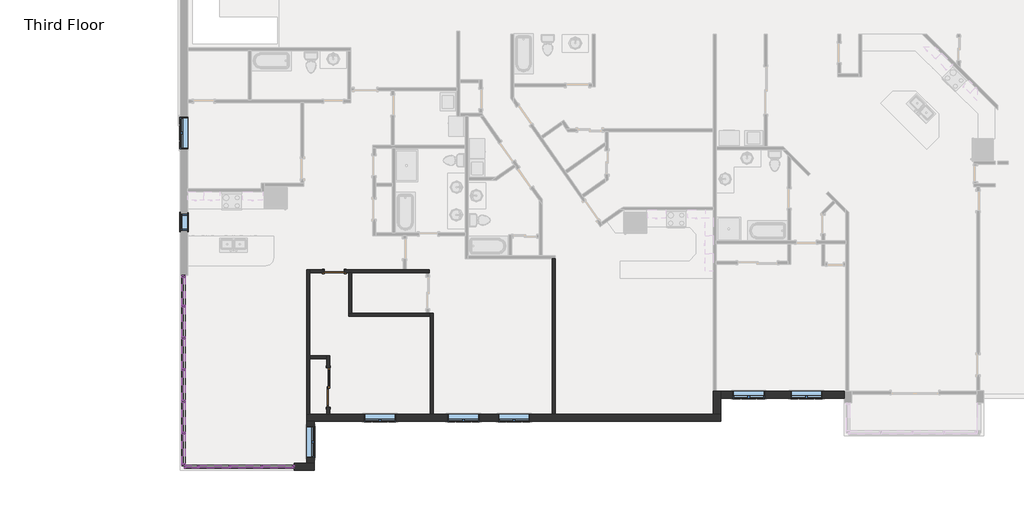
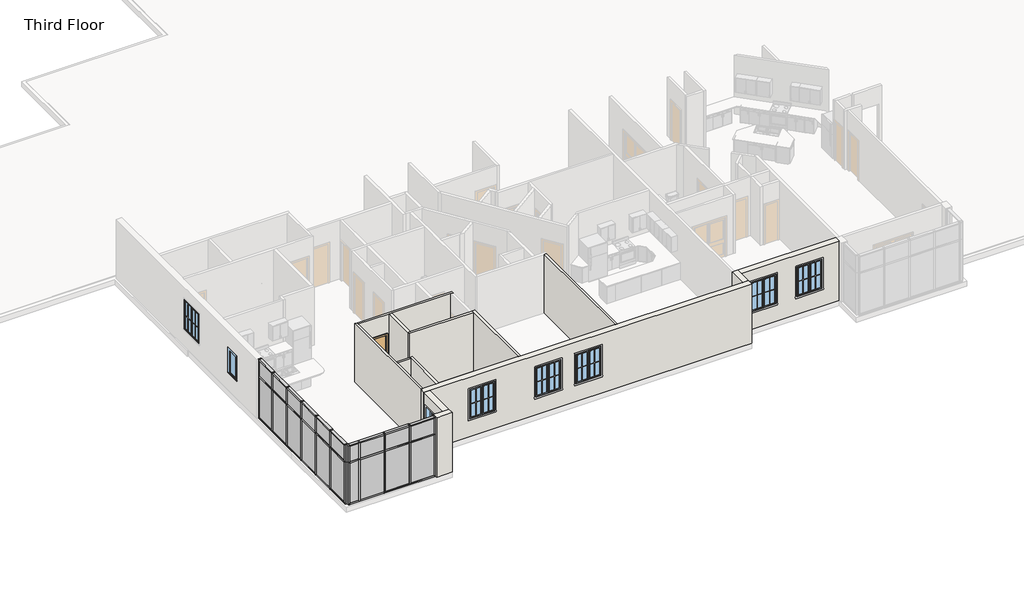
# One storey, part 1 of 17: 54 members, 20 plates, 13 walls, 8 windows, 2 doors.
"""IFC4 building model written with IfcOpenShell, lengths in millimetres."""

from ifc_helpers import new_model, si_unit, frame, origin, place, context, project, spatial, polyline, outline, extrude, faceted_brep, transform, mapped, element, save
from components import door_f2b275c1, door_2e7ec8be, rectangular_mullion_rectangular_mullion_1_c1bf3533, rectangular_mullion_rectangular_mullion_1_fa3625a1, rectangular_mullion_rectangular_mullion_1_a50b3cda, rectangular_mullion_rectangular_mullion_1_5cd4c5ac, rectangular_mullion_rectangular_mullion_1_7cbf0b94, rectangular_mullion_rectangular_mullion_1_1da01dff, rectangular_mullion_rectangular_mullion_1_6186cc23, rectangular_mullion_rectangular_mullion_1_049a2e78, rectangular_mullion_rectangular_mullion_1_fcad50a8, rectangular_mullion_rectangular_mullion_1_aa096312, system_panel_glazed_53e6f9fb, system_panel_glazed_0e039939, system_panel_glazed_cb820e14, system_panel_glazed_5b288161, system_panel_glazed_f20beefc, system_panel_glazed_097fd36c, window_b85827b5, window_33528cc2

model = new_model("IFC4")

# Units and contexts
model_context = context("Model", 3, world=origin())
ifc_project = project(units=[si_unit("LENGTHUNIT", "METRE", prefix="MILLI")], contexts=[model_context])

# Site, building, storey
site = spatial("IfcSite", under=ifc_project)
building = spatial("IfcBuilding", under=site)
storey = spatial("IfcBuildingStorey", under=building, Name="Third Floor", Elevation=6096.0)

# Doors
placement = place(None, origin())
door_shape = door_f2b275c1(model_context)
element("IfcDoor", 1, ObjectType="Single-Flush : 30\" x 80\"", at=placement, inside=storey, context=model_context, shape_type="MappedRepresentation", body=[
    mapped(door_shape, transform((12807.779723, -13829.1071807, 6096.0), x_axis=(1.0, 0.0, 0.0), y_axis=(0.0, 1.0, 0.0), z_axis=(0.0, 0.0, 1.0))),
])
door_2_shape = door_2e7ec8be(model_context)
element("IfcDoor", 2, ObjectType="Sliding-Closet : 60\" x 80\"", at=placement, inside=storey, context=model_context, shape_type="MappedRepresentation", body=[
    mapped(door_2_shape, transform((12448.2103704, -18291.1858961, 6096.0), x_axis=(0.0, -1.0, 0.0), y_axis=(1.0, 0.0, 0.0), z_axis=(0.0, 0.0, 1.0))),
])

# Members
rectangular_mullion_rectangular_mullion_1_shape = rectangular_mullion_rectangular_mullion_1_c1bf3533(model_context)
element("IfcMember", 3, ObjectType="Rectangular Mullion : Rectangular Mullion 1", at=placement, inside=storey, context=model_context, shape_type="MappedRepresentation", body=[
    mapped(rectangular_mullion_rectangular_mullion_1_shape, transform((7097.5509633, -21333.0996067, 9144.0), x_axis=(0.0, 0.0, 1.0), y_axis=(0.0, 1.0, 0.0), z_axis=(-1.0, 0.0, 0.0))),
])
rectangular_mullion_rectangular_mullion_1_2_shape = rectangular_mullion_rectangular_mullion_1_fa3625a1(model_context)
element("IfcMember", 4, ObjectType="Rectangular Mullion : Rectangular Mullion 1", at=placement, inside=storey, context=model_context, shape_type="MappedRepresentation", body=[
    mapped(rectangular_mullion_rectangular_mullion_1_2_shape, transform((10056.650963, -21333.0996067, 9144.0), x_axis=(0.0, 0.0, 1.0), y_axis=(0.0, 1.0, 0.0), z_axis=(-1.0, 0.0, 0.0))),
])
element("IfcMember", 5, ObjectType="Rectangular Mullion : Rectangular Mullion 1", at=placement, inside=storey, context=model_context, shape_type="MappedRepresentation", body=[
    mapped(rectangular_mullion_rectangular_mullion_1_2_shape, transform((8837.450963, -21333.0996067, 9144.0), x_axis=(0.0, 0.0, 1.0), y_axis=(0.0, 1.0, 0.0), z_axis=(-1.0, 0.0, 0.0))),
])
element("IfcMember", 6, ObjectType="Rectangular Mullion : Rectangular Mullion 1", at=placement, inside=storey, context=model_context, shape_type="MappedRepresentation", body=[
    mapped(rectangular_mullion_rectangular_mullion_1_2_shape, transform((7618.250963, -21333.0996067, 9144.0), x_axis=(0.0, 0.0, 1.0), y_axis=(0.0, 1.0, 0.0), z_axis=(-1.0, 0.0, 0.0))),
])
element("IfcMember", 7, ObjectType="Rectangular Mullion : Rectangular Mullion 1", at=placement, inside=storey, context=model_context, shape_type="MappedRepresentation", body=[
    mapped(rectangular_mullion_rectangular_mullion_1_2_shape, transform((7015.0009633, -20069.4496064, 9144.0), x_axis=(0.0, 0.0, 1.0), y_axis=(1.0, 0.0, 0.0), z_axis=(0.0, 1.0, 0.0))),
])
element("IfcMember", 8, ObjectType="Rectangular Mullion : Rectangular Mullion 1", at=placement, inside=storey, context=model_context, shape_type="MappedRepresentation", body=[
    mapped(rectangular_mullion_rectangular_mullion_1_2_shape, transform((7015.0009633, -18850.2496064, 9144.0), x_axis=(0.0, 0.0, 1.0), y_axis=(1.0, 0.0, 0.0), z_axis=(0.0, 1.0, 0.0))),
])
element("IfcMember", 9, ObjectType="Rectangular Mullion : Rectangular Mullion 1", at=placement, inside=storey, context=model_context, shape_type="MappedRepresentation", body=[
    mapped(rectangular_mullion_rectangular_mullion_1_2_shape, transform((7015.0009633, -17631.0496064, 9144.0), x_axis=(0.0, 0.0, 1.0), y_axis=(1.0, 0.0, 0.0), z_axis=(0.0, 1.0, 0.0))),
])
element("IfcMember", 10, ObjectType="Rectangular Mullion : Rectangular Mullion 1", at=placement, inside=storey, context=model_context, shape_type="MappedRepresentation", body=[
    mapped(rectangular_mullion_rectangular_mullion_1_2_shape, transform((7015.0009633, -16411.8496064, 9144.0), x_axis=(0.0, 0.0, 1.0), y_axis=(1.0, 0.0, 0.0), z_axis=(0.0, 1.0, 0.0))),
])
element("IfcMember", 11, ObjectType="Rectangular Mullion : Rectangular Mullion 1", at=placement, inside=storey, context=model_context, shape_type="MappedRepresentation", body=[
    mapped(rectangular_mullion_rectangular_mullion_1_2_shape, transform((7015.0009633, -15192.6496064, 9144.0), x_axis=(0.0, 0.0, 1.0), y_axis=(1.0, 0.0, 0.0), z_axis=(0.0, 1.0, 0.0))),
])
element("IfcMember", 12, ObjectType="Rectangular Mullion : Rectangular Mullion 1", at=placement, inside=storey, context=model_context, shape_type="MappedRepresentation", body=[
    mapped(rectangular_mullion_rectangular_mullion_1_2_shape, transform((11212.3509633, -21333.0996067, 6096.0), x_axis=(0.0, 0.0, -1.0), y_axis=(0.0, 1.0, 0.0), z_axis=(1.0, 0.0, 0.0))),
])
element("IfcMember", 13, ObjectType="Rectangular Mullion : Rectangular Mullion 1", at=placement, inside=storey, context=model_context, shape_type="MappedRepresentation", body=[
    mapped(rectangular_mullion_rectangular_mullion_1_2_shape, transform((9993.150963, -21333.0996067, 6096.0), x_axis=(0.0, 0.0, -1.0), y_axis=(0.0, 1.0, 0.0), z_axis=(1.0, 0.0, 0.0))),
])
element("IfcMember", 14, ObjectType="Rectangular Mullion : Rectangular Mullion 1", at=placement, inside=storey, context=model_context, shape_type="MappedRepresentation", body=[
    mapped(rectangular_mullion_rectangular_mullion_1_2_shape, transform((8773.950963, -21333.0996067, 6096.0), x_axis=(0.0, 0.0, -1.0), y_axis=(0.0, 1.0, 0.0), z_axis=(1.0, 0.0, 0.0))),
])
element("IfcMember", 15, ObjectType="Rectangular Mullion : Rectangular Mullion 1", at=placement, inside=storey, context=model_context, shape_type="MappedRepresentation", body=[
    mapped(rectangular_mullion_rectangular_mullion_1_2_shape, transform((7015.0009633, -21225.1496067, 6096.0), x_axis=(0.0, 0.0, -1.0), y_axis=(1.0, 0.0, 0.0), z_axis=(0.0, -1.0, 0.0))),
])
element("IfcMember", 16, ObjectType="Rectangular Mullion : Rectangular Mullion 1", at=placement, inside=storey, context=model_context, shape_type="MappedRepresentation", body=[
    mapped(rectangular_mullion_rectangular_mullion_1_2_shape, transform((7015.0009633, -20005.9496064, 6096.0), x_axis=(0.0, 0.0, -1.0), y_axis=(1.0, 0.0, 0.0), z_axis=(0.0, -1.0, 0.0))),
])
element("IfcMember", 17, ObjectType="Rectangular Mullion : Rectangular Mullion 1", at=placement, inside=storey, context=model_context, shape_type="MappedRepresentation", body=[
    mapped(rectangular_mullion_rectangular_mullion_1_2_shape, transform((7015.0009633, -18786.7496064, 6096.0), x_axis=(0.0, 0.0, -1.0), y_axis=(1.0, 0.0, 0.0), z_axis=(0.0, -1.0, 0.0))),
])
element("IfcMember", 18, ObjectType="Rectangular Mullion : Rectangular Mullion 1", at=placement, inside=storey, context=model_context, shape_type="MappedRepresentation", body=[
    mapped(rectangular_mullion_rectangular_mullion_1_2_shape, transform((7015.0009633, -17567.5496064, 6096.0), x_axis=(0.0, 0.0, -1.0), y_axis=(1.0, 0.0, 0.0), z_axis=(0.0, -1.0, 0.0))),
])
element("IfcMember", 19, ObjectType="Rectangular Mullion : Rectangular Mullion 1", at=placement, inside=storey, context=model_context, shape_type="MappedRepresentation", body=[
    mapped(rectangular_mullion_rectangular_mullion_1_2_shape, transform((7015.0009633, -16348.3496064, 6096.0), x_axis=(0.0, 0.0, -1.0), y_axis=(1.0, 0.0, 0.0), z_axis=(0.0, -1.0, 0.0))),
])
element("IfcMember", 20, ObjectType="Rectangular Mullion : Rectangular Mullion 1", at=placement, inside=storey, context=model_context, shape_type="MappedRepresentation", body=[
    mapped(rectangular_mullion_rectangular_mullion_1_shape, transform((7554.750963, -21333.0996067, 6096.0), x_axis=(0.0, 0.0, -1.0), y_axis=(0.0, 1.0, 0.0), z_axis=(1.0, 0.0, 0.0))),
])
rectangular_mullion_rectangular_mullion_1_3_shape = rectangular_mullion_rectangular_mullion_1_a50b3cda(model_context)
element("IfcMember", 21, ObjectType="Rectangular Mullion : Rectangular Mullion 1", at=placement, inside=storey, context=model_context, shape_type="MappedRepresentation", body=[
    mapped(rectangular_mullion_rectangular_mullion_1_3_shape, transform((7034.0509633, -21333.0996067, 6096.0), x_axis=(-1.0, 0.0, 0.0), y_axis=(0.0, 1.0, 0.0), z_axis=(0.0, 0.0, -1.0))),
])
element("IfcMember", 22, ObjectType="Rectangular Mullion : Rectangular Mullion 1", at=placement, inside=storey, context=model_context, shape_type="MappedRepresentation", body=[
    mapped(rectangular_mullion_rectangular_mullion_1_3_shape, transform((7015.0009633, -13981.3871067, 6096.0), x_axis=(0.0, 1.0, 0.0), y_axis=(1.0, 0.0, 0.0), z_axis=(0.0, 0.0, -1.0))),
])
rectangular_mullion_rectangular_mullion_1_4_shape = rectangular_mullion_rectangular_mullion_1_5cd4c5ac(model_context)
element("IfcMember", 23, ObjectType="Rectangular Mullion : Rectangular Mullion 1", at=placement, inside=storey, context=model_context, shape_type="MappedRepresentation", body=[
    mapped(rectangular_mullion_rectangular_mullion_1_4_shape, transform((7034.0509633, -21333.0996067, 8261.35), x_axis=(-1.0, 0.0, 0.0), y_axis=(0.0, 1.0, 0.0), z_axis=(0.0, 0.0, -1.0))),
])
element("IfcMember", 24, ObjectType="Rectangular Mullion : Rectangular Mullion 1", at=placement, inside=storey, context=model_context, shape_type="MappedRepresentation", body=[
    mapped(rectangular_mullion_rectangular_mullion_1_4_shape, transform((7015.0009633, -13981.3871067, 8261.35), x_axis=(0.0, 1.0, 0.0), y_axis=(1.0, 0.0, 0.0), z_axis=(0.0, 0.0, -1.0))),
])
element("IfcMember", 25, ObjectType="Rectangular Mullion : Rectangular Mullion 1", at=placement, inside=storey, context=model_context, shape_type="MappedRepresentation", body=[
    mapped(rectangular_mullion_rectangular_mullion_1_4_shape, transform((11275.8509633, -21333.0996067, 9144.0), x_axis=(1.0, 0.0, 0.0), y_axis=(0.0, 1.0, 0.0), z_axis=(0.0, 0.0, 1.0))),
])
element("IfcMember", 26, ObjectType="Rectangular Mullion : Rectangular Mullion 1", at=placement, inside=storey, context=model_context, shape_type="MappedRepresentation", body=[
    mapped(rectangular_mullion_rectangular_mullion_1_4_shape, transform((7015.0009633, -21288.6496067, 9144.0), x_axis=(0.0, -1.0, 0.0), y_axis=(1.0, 0.0, 0.0), z_axis=(0.0, 0.0, 1.0))),
])
element("IfcMember", 27, ObjectType="Rectangular Mullion : Rectangular Mullion 1", at=placement, inside=storey, context=model_context, shape_type="MappedRepresentation", body=[
    mapped(rectangular_mullion_rectangular_mullion_1_3_shape, transform((11275.8509633, -21333.0996067, 8261.35), x_axis=(1.0, 0.0, 0.0), y_axis=(0.0, 1.0, 0.0), z_axis=(0.0, 0.0, 1.0))),
])
element("IfcMember", 28, ObjectType="Rectangular Mullion : Rectangular Mullion 1", at=placement, inside=storey, context=model_context, shape_type="MappedRepresentation", body=[
    mapped(rectangular_mullion_rectangular_mullion_1_3_shape, transform((7015.0009633, -21288.6496067, 8261.35), x_axis=(0.0, -1.0, 0.0), y_axis=(1.0, 0.0, 0.0), z_axis=(0.0, 0.0, 1.0))),
])
rectangular_mullion_rectangular_mullion_1_5_shape = rectangular_mullion_rectangular_mullion_1_7cbf0b94(model_context)
element("IfcMember", 29, ObjectType="Rectangular Mullion : Rectangular Mullion 1", at=placement, inside=storey, context=model_context, shape_type="MappedRepresentation", body=[
    mapped(rectangular_mullion_rectangular_mullion_1_5_shape, transform((10056.650963, -21333.0996067, 8261.35), x_axis=(0.0, 0.0, 1.0), y_axis=(0.0, 1.0, 0.0), z_axis=(-1.0, 0.0, 0.0))),
])
element("IfcMember", 30, ObjectType="Rectangular Mullion : Rectangular Mullion 1", at=placement, inside=storey, context=model_context, shape_type="MappedRepresentation", body=[
    mapped(rectangular_mullion_rectangular_mullion_1_5_shape, transform((8837.450963, -21333.0996067, 8261.35), x_axis=(0.0, 0.0, 1.0), y_axis=(0.0, 1.0, 0.0), z_axis=(-1.0, 0.0, 0.0))),
])
element("IfcMember", 31, ObjectType="Rectangular Mullion : Rectangular Mullion 1", at=placement, inside=storey, context=model_context, shape_type="MappedRepresentation", body=[
    mapped(rectangular_mullion_rectangular_mullion_1_5_shape, transform((7618.250963, -21333.0996067, 8261.35), x_axis=(0.0, 0.0, 1.0), y_axis=(0.0, 1.0, 0.0), z_axis=(-1.0, 0.0, 0.0))),
])
element("IfcMember", 32, ObjectType="Rectangular Mullion : Rectangular Mullion 1", at=placement, inside=storey, context=model_context, shape_type="MappedRepresentation", body=[
    mapped(rectangular_mullion_rectangular_mullion_1_5_shape, transform((7015.0009633, -20069.4496064, 8261.35), x_axis=(0.0, 0.0, 1.0), y_axis=(1.0, 0.0, 0.0), z_axis=(0.0, 1.0, 0.0))),
])
element("IfcMember", 33, ObjectType="Rectangular Mullion : Rectangular Mullion 1", at=placement, inside=storey, context=model_context, shape_type="MappedRepresentation", body=[
    mapped(rectangular_mullion_rectangular_mullion_1_5_shape, transform((7015.0009633, -18850.2496064, 8261.35), x_axis=(0.0, 0.0, 1.0), y_axis=(1.0, 0.0, 0.0), z_axis=(0.0, 1.0, 0.0))),
])
element("IfcMember", 34, ObjectType="Rectangular Mullion : Rectangular Mullion 1", at=placement, inside=storey, context=model_context, shape_type="MappedRepresentation", body=[
    mapped(rectangular_mullion_rectangular_mullion_1_5_shape, transform((7015.0009633, -17631.0496064, 8261.35), x_axis=(0.0, 0.0, 1.0), y_axis=(1.0, 0.0, 0.0), z_axis=(0.0, 1.0, 0.0))),
])
element("IfcMember", 35, ObjectType="Rectangular Mullion : Rectangular Mullion 1", at=placement, inside=storey, context=model_context, shape_type="MappedRepresentation", body=[
    mapped(rectangular_mullion_rectangular_mullion_1_5_shape, transform((7015.0009633, -16411.8496064, 8261.35), x_axis=(0.0, 0.0, 1.0), y_axis=(1.0, 0.0, 0.0), z_axis=(0.0, 1.0, 0.0))),
])
element("IfcMember", 36, ObjectType="Rectangular Mullion : Rectangular Mullion 1", at=placement, inside=storey, context=model_context, shape_type="MappedRepresentation", body=[
    mapped(rectangular_mullion_rectangular_mullion_1_5_shape, transform((7015.0009633, -15192.6496064, 8261.35), x_axis=(0.0, 0.0, 1.0), y_axis=(1.0, 0.0, 0.0), z_axis=(0.0, 1.0, 0.0))),
])
rectangular_mullion_rectangular_mullion_1_6_shape = rectangular_mullion_rectangular_mullion_1_1da01dff(model_context)
element("IfcMember", 37, ObjectType="Rectangular Mullion : Rectangular Mullion 1", at=placement, inside=storey, context=model_context, shape_type="MappedRepresentation", body=[
    mapped(rectangular_mullion_rectangular_mullion_1_6_shape, transform((7097.5509633, -21333.0996067, 8261.35), x_axis=(0.0, 0.0, 1.0), y_axis=(0.0, 1.0, 0.0), z_axis=(-1.0, 0.0, 0.0))),
])
rectangular_mullion_rectangular_mullion_1_7_shape = rectangular_mullion_rectangular_mullion_1_6186cc23(model_context)
element("IfcMember", 38, ObjectType="Rectangular Mullion : Rectangular Mullion 1", at=placement, inside=storey, context=model_context, shape_type="MappedRepresentation", body=[
    mapped(rectangular_mullion_rectangular_mullion_1_7_shape, transform((10024.900963, -21333.0996067, 6096.0), x_axis=(-1.0, 0.0, 0.0), y_axis=(0.0, 1.0, 0.0), z_axis=(0.0, 0.0, -1.0))),
])
element("IfcMember", 39, ObjectType="Rectangular Mullion : Rectangular Mullion 1", at=placement, inside=storey, context=model_context, shape_type="MappedRepresentation", body=[
    mapped(rectangular_mullion_rectangular_mullion_1_7_shape, transform((8805.700963, -21333.0996067, 6096.0), x_axis=(-1.0, 0.0, 0.0), y_axis=(0.0, 1.0, 0.0), z_axis=(0.0, 0.0, -1.0))),
])
element("IfcMember", 40, ObjectType="Rectangular Mullion : Rectangular Mullion 1", at=placement, inside=storey, context=model_context, shape_type="MappedRepresentation", body=[
    mapped(rectangular_mullion_rectangular_mullion_1_7_shape, transform((7586.500963, -21333.0996067, 6096.0), x_axis=(-1.0, 0.0, 0.0), y_axis=(0.0, 1.0, 0.0), z_axis=(0.0, 0.0, -1.0))),
])
element("IfcMember", 41, ObjectType="Rectangular Mullion : Rectangular Mullion 1", at=placement, inside=storey, context=model_context, shape_type="MappedRepresentation", body=[
    mapped(rectangular_mullion_rectangular_mullion_1_7_shape, transform((7015.0009633, -20037.6996064, 6096.0), x_axis=(0.0, 1.0, 0.0), y_axis=(1.0, 0.0, 0.0), z_axis=(0.0, 0.0, -1.0))),
])
element("IfcMember", 42, ObjectType="Rectangular Mullion : Rectangular Mullion 1", at=placement, inside=storey, context=model_context, shape_type="MappedRepresentation", body=[
    mapped(rectangular_mullion_rectangular_mullion_1_7_shape, transform((7015.0009633, -18818.4996064, 6096.0), x_axis=(0.0, 1.0, 0.0), y_axis=(1.0, 0.0, 0.0), z_axis=(0.0, 0.0, -1.0))),
])
element("IfcMember", 43, ObjectType="Rectangular Mullion : Rectangular Mullion 1", at=placement, inside=storey, context=model_context, shape_type="MappedRepresentation", body=[
    mapped(rectangular_mullion_rectangular_mullion_1_7_shape, transform((7015.0009633, -17599.2996064, 6096.0), x_axis=(0.0, 1.0, 0.0), y_axis=(1.0, 0.0, 0.0), z_axis=(0.0, 0.0, -1.0))),
])
element("IfcMember", 44, ObjectType="Rectangular Mullion : Rectangular Mullion 1", at=placement, inside=storey, context=model_context, shape_type="MappedRepresentation", body=[
    mapped(rectangular_mullion_rectangular_mullion_1_7_shape, transform((7015.0009633, -16380.0996064, 6096.0), x_axis=(0.0, 1.0, 0.0), y_axis=(1.0, 0.0, 0.0), z_axis=(0.0, 0.0, -1.0))),
])
element("IfcMember", 45, ObjectType="Rectangular Mullion : Rectangular Mullion 1", at=placement, inside=storey, context=model_context, shape_type="MappedRepresentation", body=[
    mapped(rectangular_mullion_rectangular_mullion_1_7_shape, transform((7015.0009633, -15160.8996064, 6096.0), x_axis=(0.0, 1.0, 0.0), y_axis=(1.0, 0.0, 0.0), z_axis=(0.0, 0.0, -1.0))),
])
rectangular_mullion_rectangular_mullion_1_8_shape = rectangular_mullion_rectangular_mullion_1_049a2e78(model_context)
element("IfcMember", 46, ObjectType="Rectangular Mullion : Rectangular Mullion 1", at=placement, inside=storey, context=model_context, shape_type="MappedRepresentation", body=[
    mapped(rectangular_mullion_rectangular_mullion_1_8_shape, transform((10024.900963, -21333.0996067, 8261.35), x_axis=(-1.0, 0.0, 0.0), y_axis=(0.0, 1.0, 0.0), z_axis=(0.0, 0.0, -1.0))),
])
element("IfcMember", 47, ObjectType="Rectangular Mullion : Rectangular Mullion 1", at=placement, inside=storey, context=model_context, shape_type="MappedRepresentation", body=[
    mapped(rectangular_mullion_rectangular_mullion_1_8_shape, transform((8805.700963, -21333.0996067, 8261.35), x_axis=(-1.0, 0.0, 0.0), y_axis=(0.0, 1.0, 0.0), z_axis=(0.0, 0.0, -1.0))),
])
element("IfcMember", 48, ObjectType="Rectangular Mullion : Rectangular Mullion 1", at=placement, inside=storey, context=model_context, shape_type="MappedRepresentation", body=[
    mapped(rectangular_mullion_rectangular_mullion_1_8_shape, transform((7586.500963, -21333.0996067, 8261.35), x_axis=(-1.0, 0.0, 0.0), y_axis=(0.0, 1.0, 0.0), z_axis=(0.0, 0.0, -1.0))),
])
element("IfcMember", 49, ObjectType="Rectangular Mullion : Rectangular Mullion 1", at=placement, inside=storey, context=model_context, shape_type="MappedRepresentation", body=[
    mapped(rectangular_mullion_rectangular_mullion_1_8_shape, transform((7015.0009633, -20037.6996064, 8261.35), x_axis=(0.0, 1.0, 0.0), y_axis=(1.0, 0.0, 0.0), z_axis=(0.0, 0.0, -1.0))),
])
element("IfcMember", 50, ObjectType="Rectangular Mullion : Rectangular Mullion 1", at=placement, inside=storey, context=model_context, shape_type="MappedRepresentation", body=[
    mapped(rectangular_mullion_rectangular_mullion_1_8_shape, transform((7015.0009633, -18818.4996064, 8261.35), x_axis=(0.0, 1.0, 0.0), y_axis=(1.0, 0.0, 0.0), z_axis=(0.0, 0.0, -1.0))),
])
element("IfcMember", 51, ObjectType="Rectangular Mullion : Rectangular Mullion 1", at=placement, inside=storey, context=model_context, shape_type="MappedRepresentation", body=[
    mapped(rectangular_mullion_rectangular_mullion_1_8_shape, transform((7015.0009633, -17599.2996064, 8261.35), x_axis=(0.0, 1.0, 0.0), y_axis=(1.0, 0.0, 0.0), z_axis=(0.0, 0.0, -1.0))),
])
element("IfcMember", 52, ObjectType="Rectangular Mullion : Rectangular Mullion 1", at=placement, inside=storey, context=model_context, shape_type="MappedRepresentation", body=[
    mapped(rectangular_mullion_rectangular_mullion_1_8_shape, transform((7015.0009633, -16380.0996064, 8261.35), x_axis=(0.0, 1.0, 0.0), y_axis=(1.0, 0.0, 0.0), z_axis=(0.0, 0.0, -1.0))),
])
element("IfcMember", 53, ObjectType="Rectangular Mullion : Rectangular Mullion 1", at=placement, inside=storey, context=model_context, shape_type="MappedRepresentation", body=[
    mapped(rectangular_mullion_rectangular_mullion_1_8_shape, transform((7015.0009633, -15160.8996064, 8261.35), x_axis=(0.0, 1.0, 0.0), y_axis=(1.0, 0.0, 0.0), z_axis=(0.0, 0.0, -1.0))),
])
rectangular_mullion_rectangular_mullion_1_9_shape = rectangular_mullion_rectangular_mullion_1_fcad50a8(model_context)
element("IfcMember", 54, ObjectType="Rectangular Mullion : Rectangular Mullion 1", at=placement, inside=storey, context=model_context, shape_type="MappedRepresentation", body=[
    mapped(rectangular_mullion_rectangular_mullion_1_9_shape, transform((7015.0009633, -14044.8871067, 9144.0), x_axis=(0.0, 0.0, 1.0), y_axis=(1.0, 0.0, 0.0), z_axis=(0.0, 1.0, 0.0))),
])
element("IfcMember", 55, ObjectType="Rectangular Mullion : Rectangular Mullion 1", at=placement, inside=storey, context=model_context, shape_type="MappedRepresentation", body=[
    mapped(rectangular_mullion_rectangular_mullion_1_9_shape, transform((7015.0009633, -15129.1496064, 6096.0), x_axis=(0.0, 0.0, -1.0), y_axis=(1.0, 0.0, 0.0), z_axis=(0.0, -1.0, 0.0))),
])
rectangular_mullion_rectangular_mullion_1_10_shape = rectangular_mullion_rectangular_mullion_1_aa096312(model_context)
element("IfcMember", 56, ObjectType="Rectangular Mullion : Rectangular Mullion 1", at=placement, inside=storey, context=model_context, shape_type="MappedRepresentation", body=[
    mapped(rectangular_mullion_rectangular_mullion_1_10_shape, transform((7015.0009633, -14044.8871067, 8261.35), x_axis=(0.0, 0.0, 1.0), y_axis=(1.0, 0.0, 0.0), z_axis=(0.0, 1.0, 0.0))),
])

# Plates
system_panel_glazed_shape = system_panel_glazed_53e6f9fb(model_context)
element("IfcPlate", 57, ObjectType="System Panel : Glazed", at=placement, inside=storey, context=model_context, shape_type="MappedRepresentation", body=[
    mapped(system_panel_glazed_shape, transform((10634.5009632, -21333.0996067, 6159.5), x_axis=(-1.0, 0.0, 0.0), y_axis=(0.0, -1.0, 0.0), z_axis=(0.0, 0.0, 1.0))),
])
element("IfcPlate", 58, ObjectType="System Panel : Glazed", at=placement, inside=storey, context=model_context, shape_type="MappedRepresentation", body=[
    mapped(system_panel_glazed_shape, transform((7015.0009633, -20647.2996066, 6159.5), x_axis=(0.0, 1.0, 0.0), y_axis=(-1.0, 0.0, 0.0), z_axis=(0.0, 0.0, 1.0))),
])
element("IfcPlate", 59, ObjectType="System Panel : Glazed", at=placement, inside=storey, context=model_context, shape_type="MappedRepresentation", body=[
    mapped(system_panel_glazed_shape, transform((9415.300963, -21333.0996067, 6159.5), x_axis=(-1.0, 0.0, 0.0), y_axis=(0.0, -1.0, 0.0), z_axis=(0.0, 0.0, 1.0))),
])
element("IfcPlate", 60, ObjectType="System Panel : Glazed", at=placement, inside=storey, context=model_context, shape_type="MappedRepresentation", body=[
    mapped(system_panel_glazed_shape, transform((8196.100963, -21333.0996067, 6159.5), x_axis=(-1.0, 0.0, 0.0), y_axis=(0.0, -1.0, 0.0), z_axis=(0.0, 0.0, 1.0))),
])
element("IfcPlate", 61, ObjectType="System Panel : Glazed", at=placement, inside=storey, context=model_context, shape_type="MappedRepresentation", body=[
    mapped(system_panel_glazed_shape, transform((7015.0009633, -19428.0996064, 6159.5), x_axis=(0.0, 1.0, 0.0), y_axis=(-1.0, 0.0, 0.0), z_axis=(0.0, 0.0, 1.0))),
])
element("IfcPlate", 62, ObjectType="System Panel : Glazed", at=placement, inside=storey, context=model_context, shape_type="MappedRepresentation", body=[
    mapped(system_panel_glazed_shape, transform((7015.0009633, -18208.8996064, 6159.5), x_axis=(0.0, 1.0, 0.0), y_axis=(-1.0, 0.0, 0.0), z_axis=(0.0, 0.0, 1.0))),
])
element("IfcPlate", 63, ObjectType="System Panel : Glazed", at=placement, inside=storey, context=model_context, shape_type="MappedRepresentation", body=[
    mapped(system_panel_glazed_shape, transform((7015.0009633, -16989.6996064, 6159.5), x_axis=(0.0, 1.0, 0.0), y_axis=(-1.0, 0.0, 0.0), z_axis=(0.0, 0.0, 1.0))),
])
element("IfcPlate", 64, ObjectType="System Panel : Glazed", at=placement, inside=storey, context=model_context, shape_type="MappedRepresentation", body=[
    mapped(system_panel_glazed_shape, transform((7015.0009633, -15770.4996064, 6159.5), x_axis=(0.0, 1.0, 0.0), y_axis=(-1.0, 0.0, 0.0), z_axis=(0.0, 0.0, 1.0))),
])
system_panel_glazed_2_shape = system_panel_glazed_0e039939(model_context)
element("IfcPlate", 65, ObjectType="System Panel : Glazed", at=placement, inside=storey, context=model_context, shape_type="MappedRepresentation", body=[
    mapped(system_panel_glazed_2_shape, transform((7326.1509632, -21333.0996067, 6159.5), x_axis=(-1.0, 0.0, 0.0), y_axis=(0.0, -1.0, 0.0), z_axis=(0.0, 0.0, 1.0))),
])
system_panel_glazed_3_shape = system_panel_glazed_cb820e14(model_context)
element("IfcPlate", 66, ObjectType="System Panel : Glazed", at=placement, inside=storey, context=model_context, shape_type="MappedRepresentation", body=[
    mapped(system_panel_glazed_3_shape, transform((10634.5009632, -21333.0996067, 8293.1), x_axis=(-1.0, 0.0, 0.0), y_axis=(0.0, -1.0, 0.0), z_axis=(0.0, 0.0, 1.0))),
])
element("IfcPlate", 67, ObjectType="System Panel : Glazed", at=placement, inside=storey, context=model_context, shape_type="MappedRepresentation", body=[
    mapped(system_panel_glazed_3_shape, transform((9415.300963, -21333.0996067, 8293.1), x_axis=(-1.0, 0.0, 0.0), y_axis=(0.0, -1.0, 0.0), z_axis=(0.0, 0.0, 1.0))),
])
element("IfcPlate", 68, ObjectType="System Panel : Glazed", at=placement, inside=storey, context=model_context, shape_type="MappedRepresentation", body=[
    mapped(system_panel_glazed_3_shape, transform((8196.100963, -21333.0996067, 8293.1), x_axis=(-1.0, 0.0, 0.0), y_axis=(0.0, -1.0, 0.0), z_axis=(0.0, 0.0, 1.0))),
])
element("IfcPlate", 69, ObjectType="System Panel : Glazed", at=placement, inside=storey, context=model_context, shape_type="MappedRepresentation", body=[
    mapped(system_panel_glazed_3_shape, transform((7015.0009633, -20647.2996066, 8293.1), x_axis=(0.0, 1.0, 0.0), y_axis=(-1.0, 0.0, 0.0), z_axis=(0.0, 0.0, 1.0))),
])
element("IfcPlate", 70, ObjectType="System Panel : Glazed", at=placement, inside=storey, context=model_context, shape_type="MappedRepresentation", body=[
    mapped(system_panel_glazed_3_shape, transform((7015.0009633, -19428.0996064, 8293.1), x_axis=(0.0, 1.0, 0.0), y_axis=(-1.0, 0.0, 0.0), z_axis=(0.0, 0.0, 1.0))),
])
element("IfcPlate", 71, ObjectType="System Panel : Glazed", at=placement, inside=storey, context=model_context, shape_type="MappedRepresentation", body=[
    mapped(system_panel_glazed_3_shape, transform((7015.0009633, -18208.8996064, 8293.1), x_axis=(0.0, 1.0, 0.0), y_axis=(-1.0, 0.0, 0.0), z_axis=(0.0, 0.0, 1.0))),
])
element("IfcPlate", 72, ObjectType="System Panel : Glazed", at=placement, inside=storey, context=model_context, shape_type="MappedRepresentation", body=[
    mapped(system_panel_glazed_3_shape, transform((7015.0009633, -16989.6996064, 8293.1), x_axis=(0.0, 1.0, 0.0), y_axis=(-1.0, 0.0, 0.0), z_axis=(0.0, 0.0, 1.0))),
])
element("IfcPlate", 73, ObjectType="System Panel : Glazed", at=placement, inside=storey, context=model_context, shape_type="MappedRepresentation", body=[
    mapped(system_panel_glazed_3_shape, transform((7015.0009633, -15770.4996064, 8293.1), x_axis=(0.0, 1.0, 0.0), y_axis=(-1.0, 0.0, 0.0), z_axis=(0.0, 0.0, 1.0))),
])
system_panel_glazed_4_shape = system_panel_glazed_5b288161(model_context)
element("IfcPlate", 74, ObjectType="System Panel : Glazed", at=placement, inside=storey, context=model_context, shape_type="MappedRepresentation", body=[
    mapped(system_panel_glazed_4_shape, transform((7326.1509632, -21333.0996067, 8293.1), x_axis=(-1.0, 0.0, 0.0), y_axis=(0.0, -1.0, 0.0), z_axis=(0.0, 0.0, 1.0))),
])
system_panel_glazed_5_shape = system_panel_glazed_f20beefc(model_context)
element("IfcPlate", 75, ObjectType="System Panel : Glazed", at=placement, inside=storey, context=model_context, shape_type="MappedRepresentation", body=[
    mapped(system_panel_glazed_5_shape, transform((7015.0009633, -14587.0183566, 6159.5), x_axis=(0.0, 1.0, 0.0), y_axis=(-1.0, 0.0, 0.0), z_axis=(0.0, 0.0, 1.0))),
])
system_panel_glazed_6_shape = system_panel_glazed_097fd36c(model_context)
element("IfcPlate", 76, ObjectType="System Panel : Glazed", at=placement, inside=storey, context=model_context, shape_type="MappedRepresentation", body=[
    mapped(system_panel_glazed_6_shape, transform((7015.0009633, -14587.0183566, 8293.1), x_axis=(0.0, 1.0, 0.0), y_axis=(-1.0, 0.0, 0.0), z_axis=(0.0, 0.0, 1.0))),
])

# Walls
element("IfcWall", 77, ObjectType="Exterior - Brick on Wood Stud", at=placement, inside=storey, context=model_context, shape_type="Brep", body=[
    faceted_brep([(12033.0884633, -21191.8121067, 6096.0), (11750.5134633, -21191.8121067, 6096.0), (11275.8509633, -21191.8121067, 6096.0), (11275.8509633, -21191.8121067, 9144.0), (11750.5134633, -21191.8121067, 9144.0), (12033.0884633, -21191.8121067, 9144.0), (12033.0884633, -21474.3871067, 6096.0), (12033.0884633, -21474.3871067, 9144.0), (11275.8509633, -21474.3871067, 9144.0), (11275.8509633, -21474.3871067, 6096.0)], [[[0, 1, 2, 3, 4, 5]], [[6, 7, 8, 9]], [[2, 1, 0, 6, 9]], [[3, 2, 9, 8]], [[5, 4, 3, 8, 7]], [[0, 5, 7, 6]]]),
])
element("IfcWall", 78, ObjectType="Exterior - Brick on Wood Stud", at=placement, inside=storey, context=model_context, shape_type="Brep", body=[
    faceted_brep([(27656.3115862, -19313.2865506, 6096.0), (27373.7365862, -19313.2865506, 6096.0), (21299.9615862, -19313.2865506, 6096.0), (21185.6615862, -19313.2865506, 6096.0), (16611.410372, -19313.2865506, 6096.0), (16497.110372, -19313.2865506, 6096.0), (12632.3603704, -19313.2865506, 6096.0), (12518.0603704, -19313.2865506, 6096.0), (11864.8134633, -19313.2865506, 6096.0), (11750.5134633, -19313.2865506, 6096.0), (11750.5134633, -19313.2865506, 9144.0), (11864.8134633, -19313.2865506, 9144.0), (12518.0603704, -19313.2865506, 9144.0), (12632.3603704, -19313.2865506, 9144.0), (16497.110372, -19313.2865506, 9144.0), (16611.410372, -19313.2865506, 9144.0), (21185.6615862, -19313.2865506, 9144.0), (21299.9615862, -19313.2865506, 9144.0), (27373.7365862, -19313.2865506, 9144.0), (27656.3115862, -19313.2865506, 9144.0), (19109.2115862, -19313.2865506, 8534.4), (19109.2115862, -19313.2865506, 7010.4), (20328.4115862, -19313.2865506, 7010.4), (20328.4115862, -19313.2865506, 8534.4), (13955.1353712, -19313.2865506, 8534.4), (13955.1353712, -19313.2865506, 7010.4), (15174.3353712, -19313.2865506, 7010.4), (15174.3353712, -19313.2865506, 8534.4), (17163.860372, -19313.2865506, 8534.4), (17163.860372, -19313.2865506, 7010.4), (18383.060372, -19313.2865506, 7010.4), (18383.060372, -19313.2865506, 8534.4), (27656.3115862, -19595.8615506, 6096.0), (27656.3115862, -19595.8615506, 9144.0), (12033.0884633, -19595.8615506, 9144.0), (11750.5134633, -19595.8615506, 9144.0), (11750.5134633, -19595.8615506, 6096.0), (12033.0884633, -19595.8615506, 6096.0), (19109.2115862, -19595.8615506, 8534.4), (20328.4115862, -19595.8615506, 8534.4), (20328.4115862, -19595.8615506, 7010.4), (19109.2115862, -19595.8615506, 7010.4), (13955.1353712, -19595.8615506, 8534.4), (15174.3353712, -19595.8615506, 8534.4), (15174.3353712, -19595.8615506, 7010.4), (13955.1353712, -19595.8615506, 7010.4), (17163.860372, -19595.8615506, 8534.4), (18383.060372, -19595.8615506, 8534.4), (18383.060372, -19595.8615506, 7010.4), (17163.860372, -19595.8615506, 7010.4)], [[[0, 1, 2, 3, 4, 5, 6, 7, 8, 9, 10, 11, 12, 13, 14, 15, 16, 17, 18, 19], [20, 21, 22, 23], [24, 25, 26, 27], [28, 29, 30, 31]], [[32, 33, 34, 35, 36, 37], [38, 39, 40, 41], [42, 43, 44, 45], [46, 47, 48, 49]], [[21, 20, 38, 41]], [[22, 21, 41, 40]], [[23, 22, 40, 39]], [[20, 23, 39, 38]], [[25, 24, 42, 45]], [[26, 25, 45, 44]], [[27, 26, 44, 43]], [[24, 27, 43, 42]], [[29, 28, 46, 49]], [[30, 29, 49, 48]], [[31, 30, 48, 47]], [[28, 31, 47, 46]], [[9, 8, 7, 6, 5, 4, 3, 2, 1, 0, 32, 37, 36]], [[19, 18, 17, 16, 15, 14, 13, 12, 11, 10, 35, 34, 33]], [[0, 19, 33, 32]], [[10, 9, 36, 35]]]),
])
element("IfcWall", 79, ObjectType="Exterior - Brick on Wood Stud", at=placement, inside=storey, context=model_context, shape_type="Brep", body=[
    faceted_brep([(27656.3115862, -19313.2865506, 6096.0), (27656.3115862, -18708.8441587, 6096.0), (27656.3115862, -18426.2691587, 6096.0), (27656.3115862, -18426.2691587, 9144.0), (27656.3115862, -18708.8441587, 9144.0), (27656.3115862, -19313.2865506, 9144.0), (27373.7365862, -19313.2865506, 6096.0), (27373.7365862, -19313.2865506, 9144.0), (27373.7365862, -18426.2691587, 9144.0), (27373.7365862, -18426.2691587, 6096.0), (27488.0365862, -18426.2691587, 6096.0), (27488.0365862, -18426.2691587, 9144.0)], [[[0, 1, 2, 3, 4, 5]], [[6, 7, 8, 9]], [[2, 1, 0, 6, 9, 10]], [[5, 4, 3, 11, 8, 7]], [[3, 2, 10, 9, 8, 11]], [[0, 5, 7, 6]]]),
])
element("IfcWall", 80, ObjectType="Exterior - Brick on Wood Stud", at=placement, inside=storey, context=model_context, shape_type="SweptSolid", body=[
    extrude(outline(polyline([(-21191.8121067, 6096.0), (-21191.8121067, 9144.0), (-19595.8615506, 9144.0), (-19595.8615506, 6096.0), (-21191.8121067, 6096.0)]), holes=[polyline([(-20990.7368287, 8534.4), (-20990.7368287, 7010.4), (-19771.5368287, 7010.4), (-19771.5368287, 8534.4), (-20990.7368287, 8534.4)])]), frame((11750.5134633, 0.0, 0.0), z_axis=(1.0, 0.0, 0.0), x_axis=(0.0, 1.0, 0.0)), (0.0, 0.0, 1.0), 282.575),
])
element("IfcWall", 81, ObjectType="Exterior - Brick on Wood Stud", at=placement, inside=storey, context=model_context, shape_type="SweptSolid", body=[
    extrude(outline(polyline([(6096.0, 27656.3115862), (6096.0, 32412.3745389), (9144.0, 32412.3745389), (9144.0, 27656.3115862), (6096.0, 27656.3115862)]), holes=[polyline([(8534.4, 28124.6240862), (8534.4, 29343.8240862), (7010.4, 29343.8240862), (7010.4, 28124.6240862), (8534.4, 28124.6240862)]), polyline([(8534.4, 30343.8620389), (8534.4, 31563.0620389), (7010.4, 31563.0620389), (7010.4, 30343.8620389), (8534.4, 30343.8620389)])]), frame((0.0, -18708.8441587, 0.0), z_axis=(0.0, 1.0, 0.0), x_axis=(0.0, 0.0, 1.0)), (0.0, 0.0, 1.0), 282.575),
])
element("IfcWall", 82, ObjectType="Interior - 4 1/2\" Partition", at=placement, inside=storey, context=model_context, shape_type="SweptSolid", body=[
    extrude(outline(polyline([(21185.6615862, -19313.2865506), (21185.6615862, -13350.4704597), (21299.9615862, -13350.4704597), (21299.9615862, -19313.2865506), (21185.6615862, -19313.2865506)])), frame((0.0, 0.0, 6096.0), z_axis=(0.0, 0.0, 1.0), x_axis=(1.0, 0.0, 0.0)), (0.0, 0.0, 1.0), 3048.0),
])
element("IfcWall", 83, ObjectType="Interior - 4 1/2\" Partition", at=placement, inside=storey, context=model_context, shape_type="Brep", body=[
    faceted_brep([(16611.410372, -19313.2865506, 6096.0), (16611.410372, -15440.4282946, 6096.0), (16611.410372, -15440.4282946, 9144.0), (16611.410372, -19313.2865506, 9144.0), (16497.110372, -19313.2865506, 6096.0), (16497.110372, -19313.2865506, 9144.0), (16497.110372, -15554.7282946, 9144.0), (16497.110372, -15440.4282946, 9144.0), (16497.110372, -15440.4282946, 6096.0), (16497.110372, -15554.7282946, 6096.0)], [[[0, 1, 2, 3]], [[4, 5, 6, 7, 8, 9]], [[1, 0, 4, 9, 8]], [[3, 2, 7, 6, 5]], [[2, 1, 8, 7]], [[0, 3, 5, 4]]]),
])
element("IfcWall", 84, ObjectType="Interior - 4 1/2\" Partition", at=placement, inside=storey, context=model_context, shape_type="Brep", body=[
    faceted_brep([(16497.110372, -15440.4282946, 6096.0), (16459.010372, -15440.4282946, 6096.0), (16344.710372, -15440.4282946, 6096.0), (13474.529723, -15440.4282946, 6096.0), (13360.229723, -15440.4282946, 6096.0), (13360.229723, -15440.4282946, 9144.0), (13474.529723, -15440.4282946, 9144.0), (16344.710372, -15440.4282946, 9144.0), (16459.010372, -15440.4282946, 9144.0), (16497.110372, -15440.4282946, 9144.0), (16497.110372, -15554.7282946, 6096.0), (16497.110372, -15554.7282946, 9144.0), (13360.229723, -15554.7282946, 9144.0), (13360.229723, -15554.7282946, 6096.0)], [[[0, 1, 2, 3, 4, 5, 6, 7, 8, 9]], [[10, 11, 12, 13]], [[4, 3, 2, 1, 0, 10, 13]], [[9, 8, 7, 6, 5, 12, 11]], [[5, 4, 13, 12]], [[0, 9, 11, 10]]]),
])
element("IfcWall", 85, ObjectType="Interior - 4 1/2\" Partition", at=placement, inside=storey, context=model_context, shape_type="SweptSolid", body=[
    extrude(outline(polyline([(13474.529723, -13886.2571807), (13474.529723, -15440.4282946), (13360.229723, -15440.4282946), (13360.229723, -13886.2571807), (13474.529723, -13886.2571807)])), frame((0.0, 0.0, 6096.0), z_axis=(0.0, 0.0, 1.0), x_axis=(1.0, 0.0, 0.0)), (0.0, 0.0, 1.0), 3048.0),
])
element("IfcWall", 86, ObjectType="Interior - 4 1/2\" Partition", at=placement, inside=storey, context=model_context, shape_type="Brep", body=[
    faceted_brep([(11864.8134633, -19313.2865506, 6096.0), (11864.8134633, -17184.9477416, 6096.0), (11864.8134633, -17070.6477416, 6096.0), (11864.8134633, -13886.2571807, 6096.0), (11864.8134633, -13771.9571807, 6096.0), (11864.8134633, -13771.9571807, 9144.0), (11864.8134633, -13886.2571807, 9144.0), (11864.8134633, -17070.6477416, 9144.0), (11864.8134633, -17184.9477416, 9144.0), (11864.8134633, -19313.2865506, 9144.0), (11750.5134633, -19313.2865506, 6096.0), (11750.5134633, -19313.2865506, 9144.0), (11750.5134633, -13771.9571807, 9144.0), (11750.5134633, -13771.9571807, 6096.0)], [[[0, 1, 2, 3, 4, 5, 6, 7, 8, 9]], [[10, 11, 12, 13]], [[4, 3, 2, 1, 0, 10, 13]], [[9, 8, 7, 6, 5, 12, 11]], [[5, 4, 13, 12]], [[0, 9, 11, 10]]]),
])
element("IfcWall", 87, ObjectType="Interior - 4 1/2\" Partition", at=placement, inside=storey, context=model_context, shape_type="Brep", body=[
    faceted_brep([(13188.779723, -13886.2571807, 8128.0), (13188.779723, -13886.2571807, 6096.0), (13360.229723, -13886.2571807, 6096.0), (13474.529723, -13886.2571807, 6096.0), (16344.710372, -13886.2571807, 6096.0), (16459.010372, -13886.2571807, 6096.0), (16459.010372, -13886.2571807, 9144.0), (16344.710372, -13886.2571807, 9144.0), (13474.529723, -13886.2571807, 9144.0), (13360.229723, -13886.2571807, 9144.0), (11864.8134633, -13886.2571807, 9144.0), (11864.8134633, -13886.2571807, 6096.0), (12426.779723, -13886.2571807, 6096.0), (12426.779723, -13886.2571807, 8128.0), (16459.010372, -13771.9571807, 6096.0), (15565.678371, -13771.9571807, 6096.0), (15451.378371, -13771.9571807, 6096.0), (13188.779723, -13771.9571807, 6096.0), (13188.779723, -13771.9571807, 8128.0), (12426.779723, -13771.9571807, 8128.0), (12426.779723, -13771.9571807, 6096.0), (11864.8134633, -13771.9571807, 6096.0), (11864.8134633, -13771.9571807, 9144.0), (15451.378371, -13771.9571807, 9144.0), (15565.678371, -13771.9571807, 9144.0), (16459.010372, -13771.9571807, 9144.0)], [[[0, 1, 2, 3, 4, 5, 6, 7, 8, 9, 10, 11, 12, 13]], [[14, 15, 16, 17, 18, 19, 20, 21, 22, 23, 24, 25]], [[12, 11, 21, 20]], [[5, 4, 3, 2, 1, 17, 16, 15, 14]], [[10, 9, 8, 7, 6, 25, 24, 23, 22]], [[18, 17, 1, 0]], [[19, 18, 0, 13]], [[20, 19, 13, 12]], [[6, 5, 14, 25]], [[11, 10, 22, 21]]]),
])
element("IfcWall", 88, ObjectType="Interior - 4 1/2\" Partition", at=placement, inside=storey, context=model_context, shape_type="Brep", body=[
    faceted_brep([(12632.3603704, -19313.2865506, 6096.0), (12632.3603704, -19053.1858961, 6096.0), (12632.3603704, -19053.1858961, 8128.0), (12632.3603704, -17529.1858961, 8128.0), (12632.3603704, -17529.1858961, 6096.0), (12632.3603704, -17070.6477416, 6096.0), (12632.3603704, -17070.6477416, 9144.0), (12632.3603704, -19313.2865506, 9144.0), (12518.0603704, -19053.1858961, 8128.0), (12518.0603704, -19053.1858961, 6096.0), (12518.0603704, -19313.2865506, 6096.0), (12518.0603704, -19313.2865506, 9144.0), (12518.0603704, -17184.9477416, 9144.0), (12518.0603704, -17070.6477416, 9144.0), (12518.0603704, -17070.6477416, 6096.0), (12518.0603704, -17184.9477416, 6096.0), (12518.0603704, -17529.1858961, 6096.0), (12518.0603704, -17529.1858961, 8128.0)], [[[0, 1, 2, 3, 4, 5, 6, 7]], [[8, 9, 10, 11, 12, 13, 14, 15, 16, 17]], [[10, 9, 1, 0]], [[16, 15, 14, 5, 4]], [[7, 6, 13, 12, 11]], [[4, 3, 17, 16]], [[2, 1, 9, 8]], [[3, 2, 8, 17]], [[6, 5, 14, 13]], [[0, 7, 11, 10]]]),
])
element("IfcWall", 89, ObjectType="Interior - 4 1/2\" Partition", at=placement, inside=storey, context=model_context, shape_type="SweptSolid", body=[
    extrude(outline(polyline([(11864.8134633, -17070.6477416), (12518.0603704, -17070.6477416), (12518.0603704, -17184.9477416), (11864.8134633, -17184.9477416), (11864.8134633, -17070.6477416)])), frame((0.0, 0.0, 6096.0), z_axis=(0.0, 0.0, 1.0), x_axis=(1.0, 0.0, 0.0)), (0.0, 0.0, 1.0), 3048.0),
])

# Windows
window_shape = window_b85827b5(model_context)
element("IfcWindow", 90, ObjectType="Fixed with Trim : 24\" x 48\"", at=placement, inside=storey, context=model_context, shape_type="MappedRepresentation", body=[
    mapped(window_shape, transform((7029.0581159, -11899.0493344, 6096.0), x_axis=(0.0, 1.0, 0.0), y_axis=(-1.0, 0.0, 0.0), z_axis=(0.0, 0.0, 1.0))),
])
window_2_shape = window_33528cc2(model_context)
element("IfcWindow", 91, ObjectType="Window-Casement-Double : 48\" x 60\"", at=placement, inside=storey, context=model_context, shape_type="MappedRepresentation", body=[
    mapped(window_2_shape, transform((7029.0581159, -8512.9212391, 6096.0), x_axis=(0.0, 1.0, 0.0), y_axis=(-1.0, 0.0, 0.0), z_axis=(0.0, 0.0, 1.0))),
])
element("IfcWindow", 92, ObjectType="Window-Casement-Double : 48\" x 60\"", at=placement, inside=storey, context=model_context, shape_type="MappedRepresentation", body=[
    mapped(window_2_shape, transform((19718.8115862, -19454.5740506, 6096.0), x_axis=(-1.0, 0.0, 0.0), y_axis=(0.0, -1.0, 0.0), z_axis=(0.0, 0.0, 1.0))),
])
element("IfcWindow", 93, ObjectType="Window-Casement-Double : 48\" x 60\"", at=placement, inside=storey, context=model_context, shape_type="MappedRepresentation", body=[
    mapped(window_2_shape, transform((14564.7353712, -19454.5740506, 6096.0), x_axis=(-1.0, 0.0, 0.0), y_axis=(0.0, -1.0, 0.0), z_axis=(0.0, 0.0, 1.0))),
])
element("IfcWindow", 94, ObjectType="Window-Casement-Double : 48\" x 60\"", at=placement, inside=storey, context=model_context, shape_type="MappedRepresentation", body=[
    mapped(window_2_shape, transform((28734.2240862, -18567.5566587, 6096.0), x_axis=(-1.0, 0.0, 0.0), y_axis=(0.0, -1.0, 0.0), z_axis=(0.0, 0.0, 1.0))),
])
element("IfcWindow", 95, ObjectType="Window-Casement-Double : 48\" x 60\"", at=placement, inside=storey, context=model_context, shape_type="MappedRepresentation", body=[
    mapped(window_2_shape, transform((30953.4620389, -18567.5566587, 6096.0), x_axis=(-1.0, 0.0, 0.0), y_axis=(0.0, -1.0, 0.0), z_axis=(0.0, 0.0, 1.0))),
])
element("IfcWindow", 96, ObjectType="Window-Casement-Double : 48\" x 60\"", at=placement, inside=storey, context=model_context, shape_type="MappedRepresentation", body=[
    mapped(window_2_shape, transform((17773.460372, -19454.5740506, 6096.0), x_axis=(-1.0, 0.0, 0.0), y_axis=(0.0, -1.0, 0.0), z_axis=(0.0, 0.0, 1.0))),
])
element("IfcWindow", 97, ObjectType="Window-Casement-Double : 48\" x 60\"", at=placement, inside=storey, context=model_context, shape_type="MappedRepresentation", body=[
    mapped(window_2_shape, transform((11891.8009633, -20381.1368287, 6096.0), x_axis=(0.0, -1.0, 0.0), y_axis=(1.0, 0.0, 0.0), z_axis=(0.0, 0.0, 1.0))),
])

save(model, "model.ifc")
